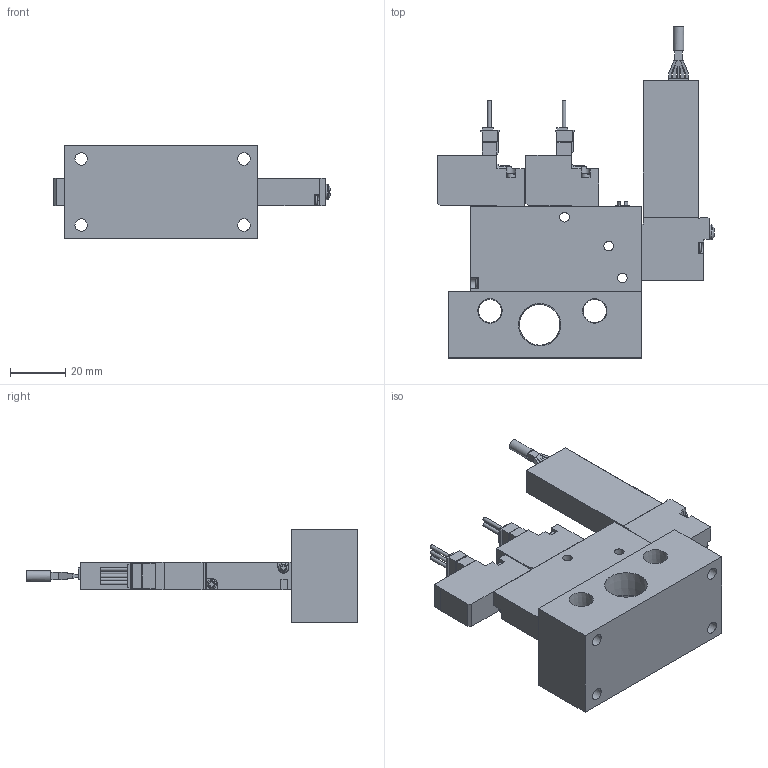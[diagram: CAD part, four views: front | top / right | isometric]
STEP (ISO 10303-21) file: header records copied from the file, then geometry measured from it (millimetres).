
FILE_DESCRIPTION(('STEP AP203'),'1');
FILE_NAME('BMPV42MV9.V9P5W101.stp','2025-04-30T01:14:07',(' '),(' '),'Spatial InterOp 3D',' ',' ');
FILE_SCHEMA(('CONFIG_CONTROL_DESIGN'));
Length unit declared in the file: millimetre
Products named in the file (6): BMPV42MV9.V9P5W101; VACUUM VALVE FUNCTION MPV42-W; VACUUM SENSOR MPV42-V9; VACUUM VALVE FUNCTION MPV42-A; UNIT-MPV42; MPV42-M10R-1
Assembly tree (5 placements, depth 2):
  BMPV42MV9.V9P5W101
    VACUUM VALVE FUNCTION MPV42-W
    VACUUM SENSOR MPV42-V9
    VACUUM VALVE FUNCTION MPV42-A
    UNIT-MPV42
    MPV42-M10R-1
Bounding box: 100.35 x 120.3 x 34 mm (x, y, z)
Volume: 90090.8 mm3; surface area: 30368.9 mm2
Topology: 5 solids, 5 shells, 402 faces, 1086 edges, 719 vertices
Faces by surface type: plane 308, cylinder 74, cone 10, sphere 5, torus 5
Full cylindrical faces by diameter (mm): 1.4 x5, 1.8 x1, 2.2 x2, 3 x4, 3.5 x11, 3.8 x1, 4.134 x2, 4.5 x4, 5 x1, 5.5 x1, 8.441 x2, 14.744 x1
Entity records: 12658 total; most frequent: CARTESIAN_POINT 2409, ORIENTED_EDGE 2016, DIRECTION 2000, EDGE_CURVE 1008, LINE 788, VECTOR 788, VERTEX_POINT 697, AXIS2_PLACEMENT_3D 606
